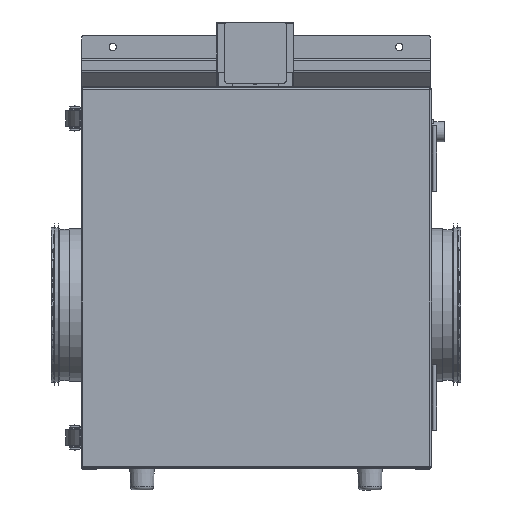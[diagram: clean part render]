
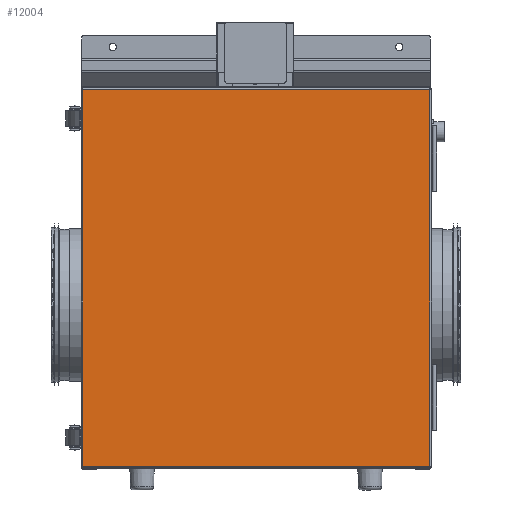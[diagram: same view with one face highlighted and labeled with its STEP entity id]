
A CAD part, left-side view. The second image highlights one B-rep face of the part: STEP entity #12004.
In plain terms, the highlighted planar face has unit normal (-1, 0, 0) as drawn and (0, -1, 0) by its records, which use the part's own axes.
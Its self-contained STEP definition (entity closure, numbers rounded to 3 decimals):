
#3772=ORIENTED_EDGE('',*,*,#5606,.T.);
#3773=ORIENTED_EDGE('',*,*,#5607,.T.);
#3774=ORIENTED_EDGE('',*,*,#5598,.T.);
#3775=ORIENTED_EDGE('',*,*,#5602,.T.);
#3776=ORIENTED_EDGE('',*,*,#5608,.T.);
#3777=ORIENTED_EDGE('',*,*,#5609,.T.);
#3778=ORIENTED_EDGE('',*,*,#5580,.T.);
#3779=ORIENTED_EDGE('',*,*,#5610,.T.);
#5580=EDGE_CURVE('',#6740,#6758,#7724,.T.);
#5598=EDGE_CURVE('',#6769,#6715,#7736,.T.);
#5602=EDGE_CURVE('',#6715,#6771,#7739,.T.);
#5606=EDGE_CURVE('',#6774,#6775,#7742,.T.);
#5607=EDGE_CURVE('',#6775,#6769,#7743,.T.);
#5608=EDGE_CURVE('',#6771,#6776,#7744,.T.);
#5609=EDGE_CURVE('',#6776,#6740,#7745,.T.);
#5610=EDGE_CURVE('',#6758,#6774,#7746,.T.);
#6715=VERTEX_POINT('',#20393);
#6740=VERTEX_POINT('',#20448);
#6758=VERTEX_POINT('',#20490);
#6769=VERTEX_POINT('',#20521);
#6771=VERTEX_POINT('',#20531);
#6774=VERTEX_POINT('',#20540);
#6775=VERTEX_POINT('',#20541);
#6776=VERTEX_POINT('',#20544);
#7724=LINE('',#20489,#8706);
#7736=LINE('',#20524,#8718);
#7739=LINE('',#20532,#8721);
#7742=LINE('',#20539,#8724);
#7743=LINE('',#20542,#8725);
#7744=LINE('',#20543,#8726);
#7745=LINE('',#20545,#8727);
#7746=LINE('',#20546,#8728);
#8706=VECTOR('',#16760,1000.);
#8718=VECTOR('',#16794,1000.);
#8721=VECTOR('',#16803,1000.);
#8724=VECTOR('',#16810,1000.);
#8725=VECTOR('',#16811,1000.);
#8726=VECTOR('',#16812,1000.);
#8727=VECTOR('',#16813,1000.);
#8728=VECTOR('',#16814,1000.);
#9790=EDGE_LOOP('',(#3772,#3773,#3774,#3775,#3776,#3777,#3778,#3779));
#10878=FACE_BOUND('',#9790,.T.);
#11344=PLANE('',#13576);
#12004=ADVANCED_FACE('',(#10878),#11344,.F.);
#13576=AXIS2_PLACEMENT_3D('',#20538,#16808,#16809);
#16760=DIRECTION('',(0.,0.,1.));
#16794=DIRECTION('',(0.,0.,-1.));
#16803=DIRECTION('',(0.,0.,-1.));
#16808=DIRECTION('',(0.,1.,0.));
#16809=DIRECTION('',(0.,0.,1.));
#16810=DIRECTION('',(-1.,0.,0.));
#16811=DIRECTION('',(0.,0.,-1.));
#16812=DIRECTION('',(1.,0.,0.));
#16813=DIRECTION('',(0.,0.,1.));
#16814=DIRECTION('',(0.,0.,1.));
#20393=CARTESIAN_POINT('',(-405.,-291.,3.002));
#20448=CARTESIAN_POINT('',(45.2,-291.,3.002));
#20489=CARTESIAN_POINT('',(45.2,-291.,2.));
#20490=CARTESIAN_POINT('',(45.2,-291.,490.598));
#20521=CARTESIAN_POINT('',(-405.,-291.,490.598));
#20524=CARTESIAN_POINT('',(-405.,-291.,491.6));
#20531=CARTESIAN_POINT('',(-405.,-291.,2.));
#20532=CARTESIAN_POINT('',(-405.,-291.,491.6));
#20538=CARTESIAN_POINT('',(0.,-291.,0.));
#20539=CARTESIAN_POINT('',(47.2,-291.,491.6));
#20540=CARTESIAN_POINT('',(45.2,-291.,491.6));
#20541=CARTESIAN_POINT('',(-405.,-291.,491.6));
#20542=CARTESIAN_POINT('',(-405.,-291.,491.6));
#20543=CARTESIAN_POINT('',(-407.,-291.,2.));
#20544=CARTESIAN_POINT('',(45.2,-291.,2.));
#20545=CARTESIAN_POINT('',(45.2,-291.,2.));
#20546=CARTESIAN_POINT('',(45.2,-291.,2.));
